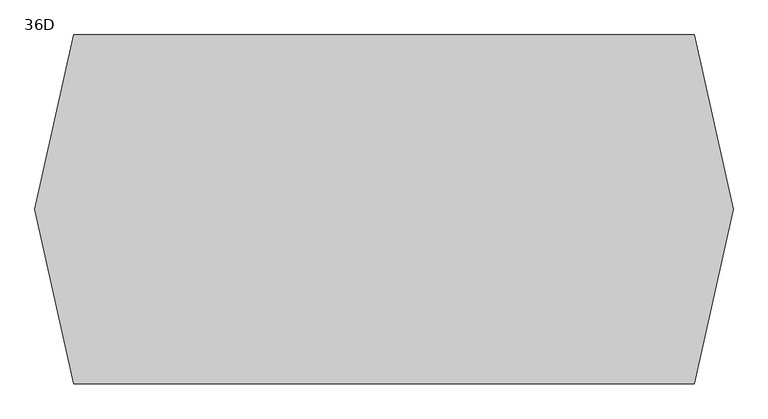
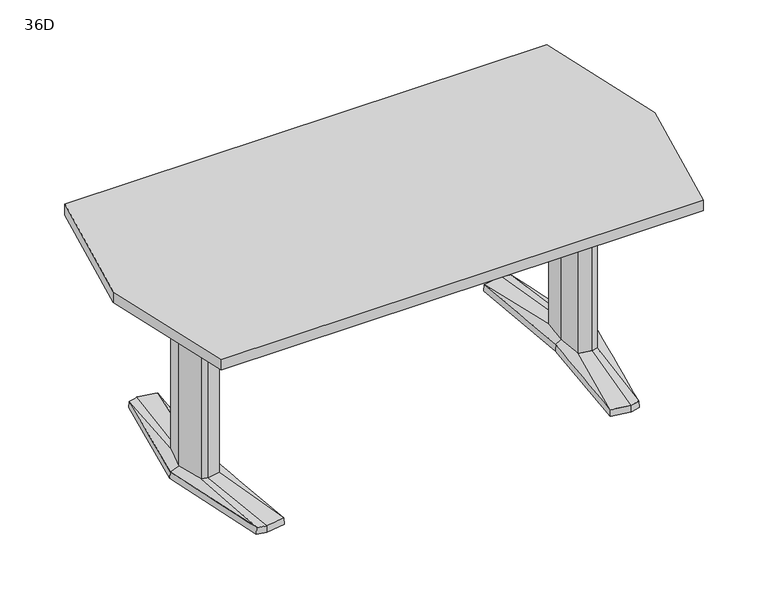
"""IFC4 building model written with IfcOpenShell, lengths in millimetres: furniture geometry, Coalesse_AM_Table_Conference_ETable2_Faceted_72in_AluminiumBase : 36D."""

from ifc_helpers import new_model, si_unit, frame, origin, place, context, project, spatial, polyline, outline, extrude, source, transform, mapped, element, save
from ifc_brep_helpers import plane_surface, spline_surface, advanced_brep


def furniture_36d_b0a119d2(model_context):
    return source(origin(), model_context, "Body", "SolidModel", [
        advanced_brep(
        [(614.8503471, -379.3768856, 25.4), (644.5756636, -371.5332654, 25.4), (668.2327243, -89.293702, 36.5125), (648.9795254, -94.605478, 36.5125), (606.0521001, -87.0529327, 36.5125), (551.7612538, -368.5071562, 25.4), (597.9364207, 0.0, 36.5125), (579.8389754, 0.3970149, 25.4), (606.0521001, 87.0529327, 36.5125), (551.7615002, 368.5172593, 25.4), (648.9795254, 94.605478, 36.5125), (614.8502233, 379.3769183, 25.4), (668.2327243, 89.293702, 36.5125), (644.7535458, 371.4863276, 25.4), (692.1595251, 0.0, 36.5125), (721.4851663, 0.0003516, 25.4), (578.2468742, 0.3968871, 3.175), (550.06875, 369.8367279, 3.175), (614.9213004, 381.0, 3.175), (646.1093245, 372.7704151, 3.175), (723.10625, 0.0, 3.175), (645.9309817, -372.8174744, 3.175), (614.9213004, -381.0, 3.175), (550.06875, -369.8264415, 3.175), (649.5979264, 107.6121478, 3.175), (594.3065451, 97.8843184, 3.175), (585.1810887, 0.0, 3.175), (594.3065451, -97.8843184, 3.175), (649.5979264, -107.6121478, 3.175), (678.6183473, -99.6056872, 3.175), (705.3083085, 0.0, 3.175), (678.6183473, 99.6056872, 3.175), (613.4286812, 346.9152841, 3.175), (557.7811371, 337.3364985, 3.175), (560.1889918, 324.8641942, 3.175), (612.8600644, 333.9306305, 3.175), (648.6725609, 324.4807859, 3.175), (647.5544526, 337.9105158, 3.175), (613.4286812, -346.9152841, 3.175), (647.5544526, -337.9105158, 3.175), (648.6725609, -324.4807859, 3.175), (612.8600644, -333.9306305, 3.175), (560.1889918, -324.8641942, 3.175), (557.7811371, -337.3364985, 3.175), (649.5979264, 107.6121478, 0.0), (678.6183473, 99.6056872, 0.0), (705.3083085, 0.0, 0.0), (678.6183473, -99.6056872, 0.0), (649.5979264, -107.6121478, 0.0), (594.3065451, -97.8843184, 0.0), (585.1810887, 0.0, 0.0), (594.3065451, 97.8843184, 0.0), (613.4286812, 346.9152841, 0.0), (647.5544526, 337.9105158, 0.0), (648.6725609, 324.4807859, 0.0), (612.8600644, 333.9306305, 0.0), (560.1889918, 324.8641942, 0.0), (557.7811371, 337.3364985, 0.0), (613.4286812, -346.9152841, 0.0), (557.7811371, -337.3364985, 0.0), (560.1889918, -324.8641942, 0.0), (612.8600644, -333.9306305, 0.0), (648.6725609, -324.4807859, 0.0), (647.5544526, -337.9105158, 0.0), (668.2327243, 89.293702, 698.5), (648.9795254, 94.605478, 698.5), (606.0521001, 87.0529327, 698.5), (597.9364207, 0.0, 698.5), (606.0521001, -87.0529327, 698.5), (648.9795254, -94.605478, 698.5), (668.2327243, -89.293702, 698.5), (692.1595251, 0.0, 698.5)],
        [
            (0, 1),
            (1, 2),
            (2, 3),
            (3, 0),
            (3, 4),
            (4, 5),
            (5, 0),
            (4, 6),
            (6, 7),
            (7, 5),
            (6, 8),
            (8, 9),
            (9, 7),
            (8, 10),
            (10, 11),
            (11, 9),
            (10, 12),
            (12, 13),
            (13, 11),
            (12, 14),
            (14, 15),
            (15, 13),
            (1, 15),
            (14, 2),
            (16, 17),
            (17, 18),
            (18, 19),
            (19, 20),
            (20, 21),
            (21, 22),
            (22, 23),
            (23, 16),
            (24, 25),
            (25, 26),
            (26, 27),
            (27, 28),
            (28, 29),
            (29, 30),
            (30, 31),
            (31, 24),
            (32, 33),
            (33, 34),
            (34, 35),
            (35, 36),
            (36, 37),
            (37, 32),
            (38, 39),
            (39, 40),
            (40, 41),
            (41, 42),
            (42, 43),
            (43, 38),
            (16, 7),
            (9, 17),
            (11, 18),
            (13, 19),
            (15, 20),
            (1, 21),
            (0, 22),
            (5, 23),
            (44, 45),
            (45, 46),
            (46, 47),
            (47, 48),
            (48, 49),
            (49, 50),
            (50, 51),
            (51, 44),
            (52, 53),
            (53, 54),
            (54, 55),
            (55, 56),
            (56, 57),
            (57, 52),
            (58, 59),
            (59, 60),
            (60, 61),
            (61, 62),
            (62, 63),
            (63, 58),
            (44, 24),
            (31, 45),
            (30, 46),
            (29, 47),
            (28, 48),
            (27, 49),
            (26, 50),
            (25, 51),
            (52, 32),
            (37, 53),
            (36, 54),
            (35, 55),
            (34, 56),
            (33, 57),
            (58, 38),
            (43, 59),
            (42, 60),
            (41, 61),
            (40, 62),
            (39, 63),
            (64, 65),
            (65, 66),
            (66, 67),
            (67, 68),
            (68, 69),
            (69, 70),
            (70, 71),
            (71, 64),
            (71, 14),
            (12, 64),
            (70, 2),
            (69, 3),
            (68, 4),
            (67, 6),
            (66, 8),
            (65, 10),
        ],
        [
            spline_surface(1, 1, [[(644.5756636, -371.5332654, 25.4), (614.8503471, -379.3768856, 25.4)], [(668.2327243, -89.293702, 36.5125), (648.9795254, -94.605478, 36.5125)]], [2, 2], [2, 2], [0.0, 1.0], [0.0, 1.0]),
            spline_surface(1, 1, [[(614.8503471, -379.3768856, 25.4), (551.7612538, -368.5071562, 25.4)], [(648.9795254, -94.605478, 36.5125), (606.0521001, -87.0529327, 36.5125)]], [2, 2], [2, 2], [0.0, 1.0], [0.0, 1.0]),
            spline_surface(1, 1, [[(551.7612538, -368.5071562, 25.4), (579.8389754, 0.3970149, 25.4)], [(606.0521001, -87.0529327, 36.5125), (597.9364207, 0.0, 36.5125)]], [2, 2], [2, 2], [0.0, 1.0], [0.0, 1.0]),
            spline_surface(1, 1, [[(579.8389754, 0.3970149, 25.4), (551.7615002, 368.5172593, 25.4)], [(597.9364207, 0.0, 36.5125), (606.0521001, 87.0529327, 36.5125)]], [2, 2], [2, 2], [0.0, 1.0], [0.0, 1.0]),
            spline_surface(1, 1, [[(551.7615002, 368.5172593, 25.4), (614.8502233, 379.3769183, 25.4)], [(606.0521001, 87.0529327, 36.5125), (648.9795254, 94.605478, 36.5125)]], [2, 2], [2, 2], [0.0, 1.0], [0.0, 1.0]),
            spline_surface(1, 1, [[(614.8502233, 379.3769183, 25.4), (644.7535458, 371.4863276, 25.4)], [(648.9795254, 94.605478, 36.5125), (668.2327243, 89.293702, 36.5125)]], [2, 2], [2, 2], [0.0, 1.0], [0.0, 1.0]),
            spline_surface(1, 1, [[(644.7535458, 371.4863276, 25.4), (721.4851663, 0.0003516, 25.4)], [(668.2327243, 89.293702, 36.5125), (692.1595251, 0.0, 36.5125)]], [2, 2], [2, 2], [0.0, 1.0], [0.0, 1.0]),
            spline_surface(1, 1, [[(721.4851663, 0.0003516, 25.4), (644.5756636, -371.5332654, 25.4)], [(692.1595251, 0.0, 36.5125), (668.2327243, -89.293702, 36.5125)]], [2, 2], [2, 2], [0.0, 1.0], [0.0, 1.0]),
            plane_surface(frame((615.4216914, 0.0450143, 3.175), z_axis=(0.0, 0.0, -1.0), x_axis=(-0.9669048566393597, -0.2551372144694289, 0.0))),
            plane_surface(frame((564.1578121, 185.1168075, 3.175), z_axis=(-0.9945699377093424, -0.07585840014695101, 0.0712470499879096), x_axis=(-0.07605167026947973, 0.9971038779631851, 0.0))),
            plane_surface(frame((582.4950252, 375.418364, 3.175), z_axis=(-0.1692071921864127, 0.9830019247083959, 0.07124704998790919), x_axis=(0.985506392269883, 0.16963829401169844, 0.0))),
            plane_surface(frame((630.5153124, 376.8852076, 3.175), z_axis=(0.2544888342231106, 0.9644476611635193, 0.07124704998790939), x_axis=(0.9669048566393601, -0.25513721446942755, 0.0))),
            plane_surface(frame((684.6077872, 186.3852076, 3.175), z_axis=(0.9768383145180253, 0.2017690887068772, 0.07124704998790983), x_axis=(0.20228315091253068, -0.9793270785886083, 0.0))),
            plane_surface(frame((684.5186158, -186.4087372, 3.175), z_axis=(0.9767507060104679, -0.20219276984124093, 0.07124704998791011), x_axis=(-0.2027079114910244, -0.9792392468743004, 0.0))),
            plane_surface(frame((630.426141, -376.9087372, 3.175), z_axis=(0.2544888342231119, -0.9644476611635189, 0.0712470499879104), x_axis=(-0.9669048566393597, -0.2551372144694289, 0.0))),
            plane_surface(frame((582.4950252, -375.4132207, 3.175), z_axis=(-0.16935861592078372, -0.982975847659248, 0.07124704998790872), x_axis=(-0.9854802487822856, 0.16979010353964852, 0.0))),
            plane_surface(frame((564.1578121, -184.7147772, 3.175), z_axis=(-0.9945820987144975, 0.07569878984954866, 0.07124704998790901), x_axis=(0.07589165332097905, 0.9971160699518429, 0.0))),
            plane_surface(frame((652.3571479, 106.8509046, 0.0), z_axis=(0.0, 0.0, -1.0000000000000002), x_axis=(-0.9639855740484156, 0.26595453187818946, 0.0))),
            plane_surface(frame((649.5979264, 107.6121478, 3.175), z_axis=(0.26595453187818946, 0.9639855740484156, 0.0), x_axis=(0.0, 0.0, -1.0))),
            plane_surface(frame((678.6183473, 99.6056872, 3.175), z_axis=(0.9659241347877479, 0.2588253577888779, 0.0), x_axis=(0.0, 0.0, -1.0))),
            plane_surface(frame((705.3083085, 0.0, 3.175), z_axis=(0.9659241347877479, -0.2588253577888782, 0.0), x_axis=(0.0, 0.0, -1.0))),
            plane_surface(frame((678.6183473, -99.6056872, 3.175), z_axis=(0.26595453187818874, -0.9639855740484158, 0.0), x_axis=(0.0, 0.0, -1.0))),
            plane_surface(frame((649.5979264, -107.6121478, 3.175), z_axis=(-0.17327617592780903, -0.9848732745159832, 0.0), x_axis=(0.0, 0.0, -1.0))),
            plane_surface(frame((594.3065451, -97.8843184, 3.175), z_axis=(-0.9956824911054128, -0.0928244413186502, 0.0), x_axis=(0.0, 0.0, -1.0))),
            plane_surface(frame((585.1810887, 0.0, 3.175), z_axis=(-0.9956824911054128, 0.09282444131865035, 0.0), x_axis=(0.0, 0.0, -1.0))),
            plane_surface(frame((594.3065451, 97.8843184, 3.175), z_axis=(-0.17327617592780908, 0.984873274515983, 0.0), x_axis=(0.0, 0.0, -1.0))),
            plane_surface(frame((613.4286812, 346.9152841, 3.175), z_axis=(0.25513721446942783, 0.9669048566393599, 0.0), x_axis=(0.0, 0.0, -1.0))),
            plane_surface(frame((647.5544526, 337.9105158, 3.175), z_axis=(0.9965521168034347, 0.0829691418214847, 0.0), x_axis=(0.0, 0.0, -1.0))),
            plane_surface(frame((648.6725609, 324.4807859, 3.175), z_axis=(-0.25513721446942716, -0.9669048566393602, 0.0), x_axis=(0.0, 0.0, -1.0))),
            plane_surface(frame((612.8600644, 333.9306305, 3.175), z_axis=(0.16963829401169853, -0.985506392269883, 0.0), x_axis=(0.0, 0.0, -1.0))),
            plane_surface(frame((560.1889918, 324.8641942, 3.175), z_axis=(-0.9818699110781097, -0.18955600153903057, 0.0), x_axis=(0.0, 0.0, -1.0))),
            plane_surface(frame((557.7811371, 337.3364985, 3.175), z_axis=(-0.16963829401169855, 0.9855063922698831, 0.0), x_axis=(0.0, 0.0, -1.0))),
            plane_surface(frame((613.4286812, -346.9152841, 3.175), z_axis=(-0.1696382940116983, -0.9855063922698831, 0.0), x_axis=(0.0, 0.0, -1.0))),
            plane_surface(frame((557.7811371, -337.3364985, 3.175), z_axis=(-0.9818699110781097, 0.18955600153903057, 0.0), x_axis=(0.0, 0.0, -1.0))),
            plane_surface(frame((560.1889918, -324.8641942, 3.175), z_axis=(0.16963829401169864, 0.985506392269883, 0.0), x_axis=(0.0, 0.0, -1.0))),
            plane_surface(frame((612.8600644, -333.9306305, 3.175), z_axis=(-0.2551372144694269, 0.9669048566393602, 0.0), x_axis=(0.0, 0.0, -1.0))),
            plane_surface(frame((648.6725609, -324.4807859, 3.175), z_axis=(0.9965521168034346, -0.0829691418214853, 0.0), x_axis=(0.0, 0.0, -1.0))),
            plane_surface(frame((647.5544526, -337.9105158, 3.175), z_axis=(0.2551372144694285, -0.9669048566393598, 0.0), x_axis=(0.0, 0.0, -1.0))),
            plane_surface(frame((692.1595251, 0.0, 698.5), z_axis=(0.0, 0.0, 1.0), x_axis=(0.25882535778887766, -0.965924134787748, 0.0))),
            plane_surface(frame((668.2327243, 89.293702, 698.5), z_axis=(0.965924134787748, 0.25882535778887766, 0.0), x_axis=(0.0, 0.0, -1.0))),
            plane_surface(frame((692.1595251, 0.0, 698.5), z_axis=(0.965924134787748, -0.2588253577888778, 0.0), x_axis=(0.0, 0.0, -1.0))),
            plane_surface(frame((668.2327243, -89.293702, 698.5), z_axis=(0.2659545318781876, -0.963985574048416, 0.0), x_axis=(0.0, 0.0, -1.0))),
            plane_surface(frame((648.9795254, -94.605478, 698.5), z_axis=(-0.1732761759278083, -0.9848732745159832, 0.0), x_axis=(0.0, 0.0, -1.0))),
            plane_surface(frame((606.0521001, -87.0529327, 698.5), z_axis=(-0.9956824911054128, -0.0928244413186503, 0.0), x_axis=(0.0, 0.0, -1.0))),
            plane_surface(frame((597.9364207, 0.0, 698.5), z_axis=(-0.9956824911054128, 0.09282444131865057, 0.0), x_axis=(0.0, 0.0, -1.0))),
            plane_surface(frame((606.0521001, 87.0529327, 698.5), z_axis=(-0.17327617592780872, 0.9848732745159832, 0.0), x_axis=(0.0, 0.0, -1.0))),
            plane_surface(frame((648.9795254, 94.605478, 698.5), z_axis=(0.26595453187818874, 0.9639855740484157, 0.0), x_axis=(0.0, 0.0, -1.0))),
        ],
        [
            (0, [[1, 2, 3, 4]]),
            (1, [[5, 6, 7, -4]]),
            (2, [[8, 9, 10, -6]]),
            (3, [[11, 12, 13, -9]]),
            (4, [[14, 15, 16, -12]]),
            (5, [[17, 18, 19, -15]]),
            (6, [[20, 21, 22, -18]]),
            (7, [[23, -21, 24, -2]]),
            (8, [[25, 26, 27, 28, 29, 30, 31, 32], [33, 34, 35, 36, 37, 38, 39, 40], [41, 42, 43, 44, 45, 46], [47, 48, 49, 50, 51, 52]]),
            (9, [[53, -13, 54, -25]]),
            (10, [[-54, -16, 55, -26]]),
            (11, [[-55, -19, 56, -27]]),
            (12, [[-56, -22, 57, -28]]),
            (13, [[-57, -23, 58, -29]]),
            (14, [[-58, -1, 59, -30]]),
            (15, [[-59, -7, 60, -31]]),
            (16, [[-60, -10, -53, -32]]),
            (17, [[61, 62, 63, 64, 65, 66, 67, 68]]),
            (17, [[69, 70, 71, 72, 73, 74]]),
            (17, [[75, 76, 77, 78, 79, 80]]),
            (18, [[81, -40, 82, -61]]),
            (19, [[-82, -39, 83, -62]]),
            (20, [[-83, -38, 84, -63]]),
            (21, [[-84, -37, 85, -64]]),
            (22, [[-85, -36, 86, -65]]),
            (23, [[-86, -35, 87, -66]]),
            (24, [[-87, -34, 88, -67]]),
            (25, [[-88, -33, -81, -68]]),
            (26, [[89, -46, 90, -69]]),
            (27, [[-90, -45, 91, -70]]),
            (28, [[-91, -44, 92, -71]]),
            (29, [[-92, -43, 93, -72]]),
            (30, [[-93, -42, 94, -73]]),
            (31, [[-94, -41, -89, -74]]),
            (32, [[95, -52, 96, -75]]),
            (33, [[-96, -51, 97, -76]]),
            (34, [[-97, -50, 98, -77]]),
            (35, [[-98, -49, 99, -78]]),
            (36, [[-99, -48, 100, -79]]),
            (37, [[-100, -47, -95, -80]]),
            (38, [[101, 102, 103, 104, 105, 106, 107, 108]]),
            (39, [[109, -20, 110, -108]]),
            (40, [[111, -24, -109, -107]]),
            (41, [[112, -3, -111, -106]]),
            (42, [[113, -5, -112, -105]]),
            (43, [[114, -8, -113, -104]]),
            (44, [[115, -11, -114, -103]]),
            (45, [[116, -14, -115, -102]]),
            (46, [[-110, -17, -116, -101]]),
        ],
    ),
        advanced_brep(
        [(-614.8503471, -379.3768856, 25.4), (-648.9795254, -94.605478, 36.5125), (-668.2327243, -89.293702, 36.5125), (-644.5756636, -371.5332654, 25.4), (-551.7612538, -368.5071562, 25.4), (-606.0521001, -87.0529327, 36.5125), (-579.8389754, 0.3970149, 25.4), (-597.9364207, 0.0, 36.5125), (-551.7615002, 368.5172593, 25.4), (-606.0521001, 87.0529327, 36.5125), (-614.8502233, 379.3769183, 25.4), (-648.9795254, 94.605478, 36.5125), (-644.7535458, 371.4863276, 25.4), (-668.2327243, 89.293702, 36.5125), (-721.4851663, 0.0003516, 25.4), (-692.1595251, 0.0, 36.5125), (-578.2468742, 0.3968871, 3.175), (-550.06875, -369.8264415, 3.175), (-614.9213004, -381.0, 3.175), (-645.9309817, -372.8174744, 3.175), (-723.10625, 0.0, 3.175), (-646.1093245, 372.7704151, 3.175), (-614.9213004, 381.0, 3.175), (-550.06875, 369.8367279, 3.175), (-649.5979264, 107.6121478, 3.175), (-678.6183473, 99.6056872, 3.175), (-705.3083085, 0.0, 3.175), (-678.6183473, -99.6056872, 3.175), (-649.5979264, -107.6121478, 3.175), (-594.3065451, -97.8843184, 3.175), (-585.1810887, 0.0, 3.175), (-594.3065451, 97.8843184, 3.175), (-613.4286812, 346.9152841, 3.175), (-647.5544526, 337.9105158, 3.175), (-648.6725609, 324.4807859, 3.175), (-612.8600644, 333.9306305, 3.175), (-560.1889918, 324.8641942, 3.175), (-557.7811371, 337.3364985, 3.175), (-613.4286812, -346.9152841, 3.175), (-557.7811371, -337.3364985, 3.175), (-560.1889918, -324.8641942, 3.175), (-612.8600644, -333.9306305, 3.175), (-648.6725609, -324.4807859, 3.175), (-647.5544526, -337.9105158, 3.175), (-649.5979264, 107.6121478, 0.0), (-594.3065451, 97.8843184, 0.0), (-585.1810887, 0.0, 0.0), (-594.3065451, -97.8843184, 0.0), (-649.5979264, -107.6121478, 0.0), (-678.6183473, -99.6056872, 0.0), (-705.3083085, 0.0, 0.0), (-678.6183473, 99.6056872, 0.0), (-613.4286812, 346.9152841, 0.0), (-557.7811371, 337.3364985, 0.0), (-560.1889918, 324.8641942, 0.0), (-612.8600644, 333.9306305, 0.0), (-648.6725609, 324.4807859, 0.0), (-647.5544526, 337.9105158, 0.0), (-613.4286812, -346.9152841, 0.0), (-647.5544526, -337.9105158, 0.0), (-648.6725609, -324.4807859, 0.0), (-612.8600644, -333.9306305, 0.0), (-560.1889918, -324.8641942, 0.0), (-557.7811371, -337.3364985, 0.0), (-668.2327243, 89.293702, 698.5), (-692.1595251, 0.0, 698.5), (-668.2327243, -89.293702, 698.5), (-648.9795254, -94.605478, 698.5), (-606.0521001, -87.0529327, 698.5), (-597.9364207, 0.0, 698.5), (-606.0521001, 87.0529327, 698.5), (-648.9795254, 94.605478, 698.5)],
        [
            (0, 1),
            (1, 2),
            (2, 3),
            (3, 0),
            (0, 4),
            (4, 5),
            (5, 1),
            (4, 6),
            (6, 7),
            (7, 5),
            (6, 8),
            (8, 9),
            (9, 7),
            (8, 10),
            (10, 11),
            (11, 9),
            (10, 12),
            (12, 13),
            (13, 11),
            (12, 14),
            (14, 15),
            (15, 13),
            (2, 15),
            (14, 3),
            (16, 17),
            (17, 18),
            (18, 19),
            (19, 20),
            (20, 21),
            (21, 22),
            (22, 23),
            (23, 16),
            (24, 25),
            (25, 26),
            (26, 27),
            (27, 28),
            (28, 29),
            (29, 30),
            (30, 31),
            (31, 24),
            (32, 33),
            (33, 34),
            (34, 35),
            (35, 36),
            (36, 37),
            (37, 32),
            (38, 39),
            (39, 40),
            (40, 41),
            (41, 42),
            (42, 43),
            (43, 38),
            (23, 8),
            (6, 16),
            (22, 10),
            (21, 12),
            (20, 14),
            (19, 3),
            (18, 0),
            (17, 4),
            (44, 45),
            (45, 46),
            (46, 47),
            (47, 48),
            (48, 49),
            (49, 50),
            (50, 51),
            (51, 44),
            (52, 53),
            (53, 54),
            (54, 55),
            (55, 56),
            (56, 57),
            (57, 52),
            (58, 59),
            (59, 60),
            (60, 61),
            (61, 62),
            (62, 63),
            (63, 58),
            (51, 25),
            (24, 44),
            (50, 26),
            (49, 27),
            (48, 28),
            (47, 29),
            (46, 30),
            (45, 31),
            (57, 33),
            (32, 52),
            (56, 34),
            (55, 35),
            (54, 36),
            (53, 37),
            (63, 39),
            (38, 58),
            (62, 40),
            (61, 41),
            (60, 42),
            (59, 43),
            (64, 65),
            (65, 66),
            (66, 67),
            (67, 68),
            (68, 69),
            (69, 70),
            (70, 71),
            (71, 64),
            (64, 13),
            (15, 65),
            (2, 66),
            (1, 67),
            (5, 68),
            (7, 69),
            (9, 70),
            (11, 71),
        ],
        [
            spline_surface(1, 1, [[(-644.5756636, -371.5332654, 25.4), (-668.2327243, -89.293702, 36.5125)], [(-614.8503471, -379.3768856, 25.4), (-648.9795254, -94.605478, 36.5125)]], [2, 2], [2, 2], [0.0, 1.0], [0.0, 1.0]),
            spline_surface(1, 1, [[(-614.8503471, -379.3768856, 25.4), (-648.9795254, -94.605478, 36.5125)], [(-551.7612538, -368.5071562, 25.4), (-606.0521001, -87.0529327, 36.5125)]], [2, 2], [2, 2], [0.0, 1.0], [0.0, 1.0]),
            spline_surface(1, 1, [[(-551.7612538, -368.5071562, 25.4), (-606.0521001, -87.0529327, 36.5125)], [(-579.8389754, 0.3970149, 25.4), (-597.9364207, 0.0, 36.5125)]], [2, 2], [2, 2], [0.0, 1.0], [0.0, 1.0]),
            spline_surface(1, 1, [[(-579.8389754, 0.3970149, 25.4), (-597.9364207, 0.0, 36.5125)], [(-551.7615002, 368.5172593, 25.4), (-606.0521001, 87.0529327, 36.5125)]], [2, 2], [2, 2], [0.0, 1.0], [0.0, 1.0]),
            spline_surface(1, 1, [[(-551.7615002, 368.5172593, 25.4), (-606.0521001, 87.0529327, 36.5125)], [(-614.8502233, 379.3769183, 25.4), (-648.9795254, 94.605478, 36.5125)]], [2, 2], [2, 2], [0.0, 1.0], [0.0, 1.0]),
            spline_surface(1, 1, [[(-614.8502233, 379.3769183, 25.4), (-648.9795254, 94.605478, 36.5125)], [(-644.7535458, 371.4863276, 25.4), (-668.2327243, 89.293702, 36.5125)]], [2, 2], [2, 2], [0.0, 1.0], [0.0, 1.0]),
            spline_surface(1, 1, [[(-644.7535458, 371.4863276, 25.4), (-668.2327243, 89.293702, 36.5125)], [(-721.4851663, 0.0003516, 25.4), (-692.1595251, 0.0, 36.5125)]], [2, 2], [2, 2], [0.0, 1.0], [0.0, 1.0]),
            spline_surface(1, 1, [[(-721.4851663, 0.0003516, 25.4), (-692.1595251, 0.0, 36.5125)], [(-644.5756636, -371.5332654, 25.4), (-668.2327243, -89.293702, 36.5125)]], [2, 2], [2, 2], [0.0, 1.0], [0.0, 1.0]),
            plane_surface(frame((-615.4216914, 0.0450143, 3.175), z_axis=(0.0, 0.0, -1.0), x_axis=(0.9669048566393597, -0.2551372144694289, 0.0))),
            plane_surface(frame((-564.1578121, 185.1168075, 3.175), z_axis=(0.9945699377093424, -0.07585840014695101, 0.0712470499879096), x_axis=(0.07605167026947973, 0.9971038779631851, 0.0))),
            plane_surface(frame((-582.4950252, 375.418364, 3.175), z_axis=(0.1692071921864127, 0.9830019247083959, 0.07124704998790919), x_axis=(-0.985506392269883, 0.16963829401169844, 0.0))),
            plane_surface(frame((-630.5153124, 376.8852076, 3.175), z_axis=(-0.2544888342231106, 0.9644476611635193, 0.07124704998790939), x_axis=(-0.9669048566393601, -0.25513721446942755, 0.0))),
            plane_surface(frame((-684.6077872, 186.3852076, 3.175), z_axis=(-0.9768383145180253, 0.2017690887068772, 0.07124704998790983), x_axis=(-0.20228315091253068, -0.9793270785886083, 0.0))),
            plane_surface(frame((-684.5186158, -186.4087372, 3.175), z_axis=(-0.9767507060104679, -0.20219276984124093, 0.07124704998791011), x_axis=(0.2027079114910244, -0.9792392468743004, 0.0))),
            plane_surface(frame((-630.426141, -376.9087372, 3.175), z_axis=(-0.2544888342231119, -0.9644476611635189, 0.0712470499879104), x_axis=(0.9669048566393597, -0.2551372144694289, 0.0))),
            plane_surface(frame((-582.4950252, -375.4132207, 3.175), z_axis=(0.16935861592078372, -0.982975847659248, 0.07124704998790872), x_axis=(0.9854802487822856, 0.16979010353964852, 0.0))),
            plane_surface(frame((-564.1578121, -184.7147772, 3.175), z_axis=(0.9945820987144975, 0.07569878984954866, 0.07124704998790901), x_axis=(-0.07589165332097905, 0.9971160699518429, 0.0))),
            plane_surface(frame((-652.3571479, 106.8509046, 0.0), z_axis=(0.0, 0.0, -1.0000000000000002), x_axis=(0.9639855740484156, 0.26595453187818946, 0.0))),
            plane_surface(frame((-649.5979264, 107.6121478, 3.175), z_axis=(-0.26595453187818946, 0.9639855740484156, 0.0), x_axis=(0.0, 0.0, -1.0))),
            plane_surface(frame((-678.6183473, 99.6056872, 3.175), z_axis=(-0.9659241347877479, 0.2588253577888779, 0.0), x_axis=(0.0, 0.0, -1.0))),
            plane_surface(frame((-705.3083085, 0.0, 3.175), z_axis=(-0.9659241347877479, -0.2588253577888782, 0.0), x_axis=(0.0, 0.0, -1.0))),
            plane_surface(frame((-678.6183473, -99.6056872, 3.175), z_axis=(-0.26595453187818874, -0.9639855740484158, 0.0), x_axis=(0.0, 0.0, -1.0))),
            plane_surface(frame((-649.5979264, -107.6121478, 3.175), z_axis=(0.17327617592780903, -0.9848732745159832, 0.0), x_axis=(0.0, 0.0, -1.0))),
            plane_surface(frame((-594.3065451, -97.8843184, 3.175), z_axis=(0.9956824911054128, -0.0928244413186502, 0.0), x_axis=(0.0, 0.0, -1.0))),
            plane_surface(frame((-585.1810887, 0.0, 3.175), z_axis=(0.9956824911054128, 0.09282444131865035, 0.0), x_axis=(0.0, 0.0, -1.0))),
            plane_surface(frame((-594.3065451, 97.8843184, 3.175), z_axis=(0.17327617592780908, 0.984873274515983, 0.0), x_axis=(0.0, 0.0, -1.0))),
            plane_surface(frame((-613.4286812, 346.9152841, 3.175), z_axis=(-0.25513721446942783, 0.9669048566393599, 0.0), x_axis=(0.0, 0.0, -1.0))),
            plane_surface(frame((-647.5544526, 337.9105158, 3.175), z_axis=(-0.9965521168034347, 0.0829691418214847, 0.0), x_axis=(0.0, 0.0, -1.0))),
            plane_surface(frame((-648.6725609, 324.4807859, 3.175), z_axis=(0.25513721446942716, -0.9669048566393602, 0.0), x_axis=(0.0, 0.0, -1.0))),
            plane_surface(frame((-612.8600644, 333.9306305, 3.175), z_axis=(-0.16963829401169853, -0.985506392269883, 0.0), x_axis=(0.0, 0.0, -1.0))),
            plane_surface(frame((-560.1889918, 324.8641942, 3.175), z_axis=(0.9818699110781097, -0.18955600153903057, 0.0), x_axis=(0.0, 0.0, -1.0))),
            plane_surface(frame((-557.7811371, 337.3364985, 3.175), z_axis=(0.16963829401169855, 0.9855063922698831, 0.0), x_axis=(0.0, 0.0, -1.0))),
            plane_surface(frame((-613.4286812, -346.9152841, 3.175), z_axis=(0.1696382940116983, -0.9855063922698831, 0.0), x_axis=(0.0, 0.0, -1.0))),
            plane_surface(frame((-557.7811371, -337.3364985, 3.175), z_axis=(0.9818699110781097, 0.18955600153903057, 0.0), x_axis=(0.0, 0.0, -1.0))),
            plane_surface(frame((-560.1889918, -324.8641942, 3.175), z_axis=(-0.16963829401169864, 0.985506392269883, 0.0), x_axis=(0.0, 0.0, -1.0))),
            plane_surface(frame((-612.8600644, -333.9306305, 3.175), z_axis=(0.2551372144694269, 0.9669048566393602, 0.0), x_axis=(0.0, 0.0, -1.0))),
            plane_surface(frame((-648.6725609, -324.4807859, 3.175), z_axis=(-0.9965521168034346, -0.0829691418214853, 0.0), x_axis=(0.0, 0.0, -1.0))),
            plane_surface(frame((-647.5544526, -337.9105158, 3.175), z_axis=(-0.2551372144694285, -0.9669048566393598, 0.0), x_axis=(0.0, 0.0, -1.0))),
            plane_surface(frame((-692.1595251, 0.0, 698.5), z_axis=(0.0, 0.0, 1.0), x_axis=(-0.25882535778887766, -0.965924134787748, 0.0))),
            plane_surface(frame((-668.2327243, 89.293702, 698.5), z_axis=(-0.965924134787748, 0.25882535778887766, 0.0), x_axis=(0.0, 0.0, -1.0))),
            plane_surface(frame((-692.1595251, 0.0, 698.5), z_axis=(-0.965924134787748, -0.2588253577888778, 0.0), x_axis=(0.0, 0.0, -1.0))),
            plane_surface(frame((-668.2327243, -89.293702, 698.5), z_axis=(-0.2659545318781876, -0.963985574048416, 0.0), x_axis=(0.0, 0.0, -1.0))),
            plane_surface(frame((-648.9795254, -94.605478, 698.5), z_axis=(0.1732761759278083, -0.9848732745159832, 0.0), x_axis=(0.0, 0.0, -1.0))),
            plane_surface(frame((-606.0521001, -87.0529327, 698.5), z_axis=(0.9956824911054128, -0.0928244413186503, 0.0), x_axis=(0.0, 0.0, -1.0))),
            plane_surface(frame((-597.9364207, 0.0, 698.5), z_axis=(0.9956824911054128, 0.09282444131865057, 0.0), x_axis=(0.0, 0.0, -1.0))),
            plane_surface(frame((-606.0521001, 87.0529327, 698.5), z_axis=(0.17327617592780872, 0.9848732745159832, 0.0), x_axis=(0.0, 0.0, -1.0))),
            plane_surface(frame((-648.9795254, 94.605478, 698.5), z_axis=(-0.26595453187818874, 0.9639855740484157, 0.0), x_axis=(0.0, 0.0, -1.0))),
        ],
        [
            (0, [[1, 2, 3, 4]]),
            (1, [[-1, 5, 6, 7]]),
            (2, [[-6, 8, 9, 10]]),
            (3, [[-9, 11, 12, 13]]),
            (4, [[-12, 14, 15, 16]]),
            (5, [[-15, 17, 18, 19]]),
            (6, [[-18, 20, 21, 22]]),
            (7, [[-3, 23, -21, 24]]),
            (8, [[25, 26, 27, 28, 29, 30, 31, 32], [33, 34, 35, 36, 37, 38, 39, 40], [41, 42, 43, 44, 45, 46], [47, 48, 49, 50, 51, 52]]),
            (9, [[-32, 53, -11, 54]]),
            (10, [[-31, 55, -14, -53]]),
            (11, [[-30, 56, -17, -55]]),
            (12, [[-29, 57, -20, -56]]),
            (13, [[-28, 58, -24, -57]]),
            (14, [[-27, 59, -4, -58]]),
            (15, [[-26, 60, -5, -59]]),
            (16, [[-25, -54, -8, -60]]),
            (17, [[61, 62, 63, 64, 65, 66, 67, 68]]),
            (17, [[69, 70, 71, 72, 73, 74]]),
            (17, [[75, 76, 77, 78, 79, 80]]),
            (18, [[-68, 81, -33, 82]]),
            (19, [[-67, 83, -34, -81]]),
            (20, [[-66, 84, -35, -83]]),
            (21, [[-65, 85, -36, -84]]),
            (22, [[-64, 86, -37, -85]]),
            (23, [[-63, 87, -38, -86]]),
            (24, [[-62, 88, -39, -87]]),
            (25, [[-61, -82, -40, -88]]),
            (26, [[-74, 89, -41, 90]]),
            (27, [[-73, 91, -42, -89]]),
            (28, [[-72, 92, -43, -91]]),
            (29, [[-71, 93, -44, -92]]),
            (30, [[-70, 94, -45, -93]]),
            (31, [[-69, -90, -46, -94]]),
            (32, [[-80, 95, -47, 96]]),
            (33, [[-79, 97, -48, -95]]),
            (34, [[-78, 98, -49, -97]]),
            (35, [[-77, 99, -50, -98]]),
            (36, [[-76, 100, -51, -99]]),
            (37, [[-75, -96, -52, -100]]),
            (38, [[101, 102, 103, 104, 105, 106, 107, 108]]),
            (39, [[-101, 109, -22, 110]]),
            (40, [[-102, -110, -23, 111]]),
            (41, [[-103, -111, -2, 112]]),
            (42, [[-104, -112, -7, 113]]),
            (43, [[-105, -113, -10, 114]]),
            (44, [[-106, -114, -13, 115]]),
            (45, [[-107, -115, -16, 116]]),
            (46, [[-108, -116, -19, -109]]),
        ],
    ),
        extrude(outline(polyline([(96.8375, 698.5), (103.1875, 698.5), (103.1875, 476.25), (-103.1875, 476.25), (-103.1875, 698.5), (-96.8375, 698.5), (-96.8375, 482.6), (96.8375, 482.6), (96.8375, 698.5)])), frame((-597.9364207, 0.0, 0.0), z_axis=(1.0, 0.0, 0.0), x_axis=(0.0, 1.0, 0.0)), (0.0, 0.0, 1.0), 1195.8728415),
        extrude(outline(polyline([(813.0406345, 457.2), (914.4, 0.0), (813.0406345, -457.2), (-813.0406345, -457.2), (-914.4, 0.0), (-813.0406345, 457.2), (813.0406345, 457.2)])), frame((0.0, 0.0, 698.5), z_axis=(0.0, 0.0, 1.0), x_axis=(1.0, 0.0, 0.0)), (0.0, 0.0, 1.0), 38.1),
    ])


if __name__ == "__main__":
    model = new_model("IFC4")
    model_context = context("Model", 3, world=origin())
    ifc_project = project(units=[si_unit("LENGTHUNIT", "METRE", prefix="MILLI")], contexts=[model_context])
    site = spatial("IfcSite", under=ifc_project)
    building = spatial("IfcBuilding", under=site)
    placement = place(None, origin())
    furniture_36d_shape = furniture_36d_b0a119d2(model_context)
    element("IfcFurniture", 1, ObjectType="Coalesse_AM_Table_Conference_ETable2_Faceted_72in_AluminiumBase : 36D", at=placement, inside=building, context=model_context, shape_type="MappedRepresentation", body=[
        mapped(furniture_36d_shape, transform((0.0, 0.0, 0.0), x_axis=(1.0, 0.0, 0.0), y_axis=(0.0, 1.0, 0.0), z_axis=(0.0, 0.0, 1.0))),
    ])
    save(model, "model.ifc")
